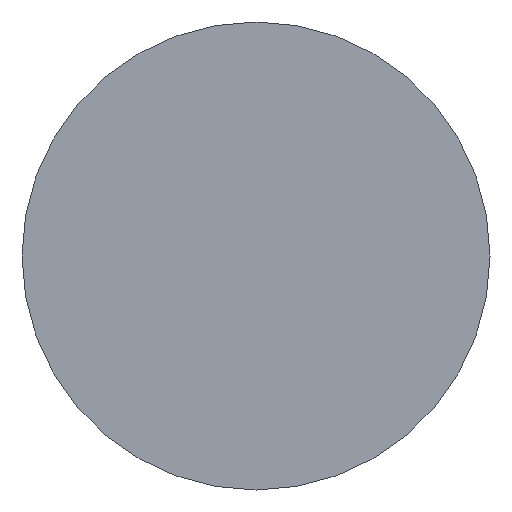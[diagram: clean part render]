
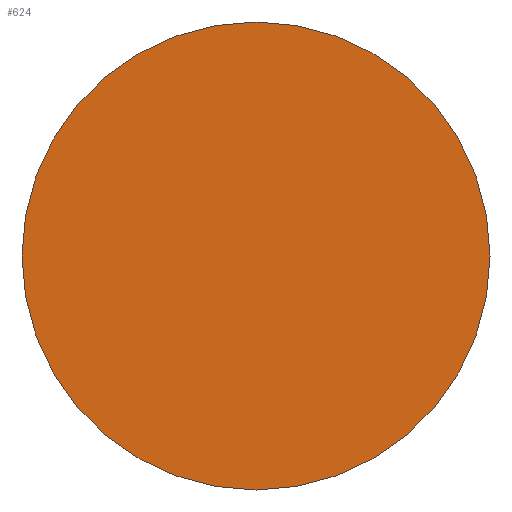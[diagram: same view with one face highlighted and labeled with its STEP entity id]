
A CAD part, front view. The second image highlights one B-rep face of the part: STEP entity #624.
In plain terms, the highlighted planar face has unit normal (0, -1, 0).
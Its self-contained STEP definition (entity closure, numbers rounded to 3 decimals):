
#207=PLANE('',#762);
#232=FACE_OUTER_BOUND('',#266,.T.);
#266=EDGE_LOOP('',(#549));
#378=CIRCLE('',#763,19.7);
#407=VERTEX_POINT('',#1171);
#458=EDGE_CURVE('',#407,#407,#378,.T.);
#549=ORIENTED_EDGE('',*,*,#458,.F.);
#624=ADVANCED_FACE('',(#232),#207,.T.);
#762=AXIS2_PLACEMENT_3D('',#1170,#928,#929);
#763=AXIS2_PLACEMENT_3D('',#1172,#930,#931);
#928=DIRECTION('center_axis',(0.,-1.,0.));
#929=DIRECTION('ref_axis',(0.,0.,-1.));
#930=DIRECTION('center_axis',(0.,1.,0.));
#931=DIRECTION('ref_axis',(1.,0.,0.));
#1170=CARTESIAN_POINT('Origin',(19.7,0.,0.));
#1171=CARTESIAN_POINT('',(-19.7,0.,0.));
#1172=CARTESIAN_POINT('Origin',(0.,0.,0.));
